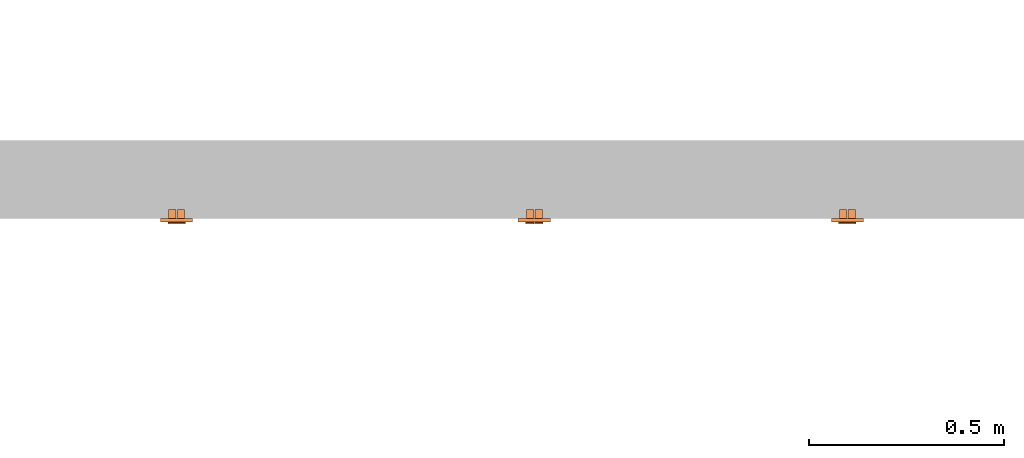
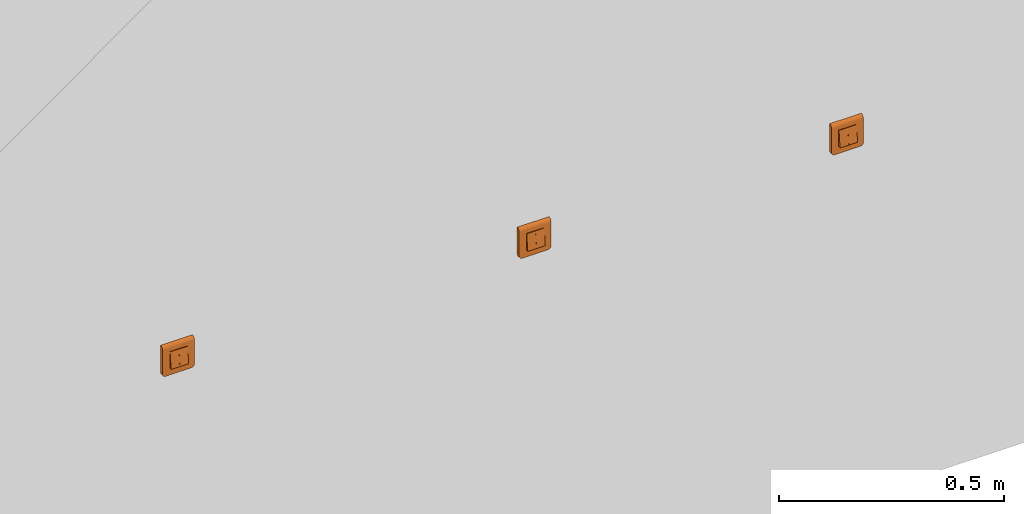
# One storey, part 104 of 197: 3 proxies.
"""IFC2X3 building model written with IfcOpenShell, lengths in metres."""

from ifc_helpers import new_model, entity, si_unit, converted_unit, direction, frame, origin, place, context, subcontext, project, spatial, faceted_brep, source, transform, mapped, material, material_list, type_object, type_shapes, element, save


model = new_model("IFC2X3")

# Units and contexts
model_context = context("Model", 3, precision=1e-05, world=origin(), true_north=direction((6.123031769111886e-17, 1.0)))
body_context = subcontext(model_context, "Body", "Model", "MODEL_VIEW")
ifc_project = project(units=[si_unit("LENGTHUNIT", "METRE"), converted_unit("PLANEANGLEUNIT", "DEGREE", entity("IfcPlaneAngleMeasure", 0.017453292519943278), si_unit("PLANEANGLEUNIT", "RADIAN"), dimensions=[0, 0, 0, 0, 0, 0, 0]), si_unit("AREAUNIT", "SQUARE_METRE")], contexts=[model_context])

# Site, building, storey
site_placement = place(None, origin())
site = spatial("IfcSite", under=ifc_project, at=site_placement, Name="Default", CompositionType="ELEMENT")
building_placement = place(site_placement, origin())
building = spatial("IfcBuilding", under=site, at=building_placement, CompositionType="ELEMENT")
storey_placement = place(building_placement, origin())
storey = spatial("IfcBuildingStorey", under=building, at=storey_placement, Name="Niveau 0", CompositionType="ELEMENT", Elevation=0.0)

# Proxies
ifc_material_1 = material(Name="BETCE-DOIGT VR-BLANC")
ifc_material_2 = material(Name="BETCE-ENJOLIVEUR VR-BLANC")
ifc_material_3 = material(Name="<Unnamed>")
ifc_material_list = material_list([ifc_material_1, ifc_material_2, ifc_material_3])
building_element_proxy_type_1 = type_object("IfcBuildingElementProxyType", Name="Interrupteur volet roulant encastré:Volet roulant", PredefinedType="NOTDEFINED", material=ifc_material_list)
shared_shape_1 = source(origin(), body_context, "Body", "Brep", [
    faceted_brep([(0.022499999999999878, -0.010499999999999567, 0.022499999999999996), (9.999999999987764e-05, -0.010499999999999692, 0.022500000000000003), (9.999999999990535e-05, -0.014999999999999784, -0.02250000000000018), (0.022499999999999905, -0.014999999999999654, -0.022500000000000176), (9.99999999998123e-05, 0.0, 0.022499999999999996), (0.022499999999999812, 0.0, 0.022499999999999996), (0.022499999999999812, 0.0, -0.02250000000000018), (9.99999999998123e-05, 0.0, -0.02250000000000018)], [[[0, 1, 2, 3]], [[4, 5, 6, 7]], [[5, 4, 1, 0]], [[6, 5, 0, 3]], [[7, 6, 3, 2]], [[4, 7, 2, 1]]]),
    faceted_brep([(-0.022500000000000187, 0.0, -0.022500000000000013), (-0.022500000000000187, 0.0, 0.022499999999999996), (-0.00010000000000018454, 0.0, 0.022499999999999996), (-0.00010000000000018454, 0.0, -0.022500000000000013), (-0.022500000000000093, -0.014999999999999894, -0.022500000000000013), (-0.02250000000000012, -0.010499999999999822, 0.022499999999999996), (-0.0001000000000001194, -0.010499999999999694, 0.022499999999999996), (-0.00010000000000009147, -0.01499999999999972, -0.022500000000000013)], [[[0, 1, 2, 3]], [[1, 0, 4, 5]], [[2, 1, 5, 6]], [[3, 2, 6, 7]], [[0, 3, 7, 4]], [[5, 4, 7, 6]]]),
    faceted_brep([(0.04099999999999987, -0.008999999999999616, -0.03299999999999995), (0.04099999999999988, -0.008999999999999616, 0.031999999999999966), (0.022499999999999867, -0.008999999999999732, -0.022500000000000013), (0.03299999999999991, -0.008999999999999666, -0.0409999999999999), (0.03507055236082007, -0.008999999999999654, -0.04072740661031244), (0.040727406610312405, -0.00899999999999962, -0.03507055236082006), (0.022499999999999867, -0.008999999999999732, 0.022499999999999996), (-0.022500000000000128, -0.009000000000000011, 0.022499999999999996), (-0.04100000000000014, -0.009000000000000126, 0.031999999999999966), (-0.022500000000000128, -0.009000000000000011, -0.022500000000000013), (-0.04100000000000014, -0.009000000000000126, -0.032999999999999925), (-0.033000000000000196, -0.009000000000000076, -0.04099999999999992), (-0.03507055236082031, -0.00900000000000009, -0.04072740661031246), (-0.040727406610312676, -0.009000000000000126, -0.035070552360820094), (-0.03700000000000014, -0.009000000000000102, -0.03992820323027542), (-0.039928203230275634, -0.009000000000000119, -0.036999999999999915), (-0.038656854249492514, -0.009000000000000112, -0.03865685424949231), (0.03699999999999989, -0.008999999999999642, -0.039928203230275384), (0.039928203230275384, -0.008999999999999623, -0.036999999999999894), (0.03865685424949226, -0.008999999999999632, -0.03865685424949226), (-0.04100000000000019, 0.0, -0.03299999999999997), (-0.041000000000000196, 0.0, 0.04100000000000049), (-0.02250000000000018, 0.0, 0.022499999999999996), (-0.02250000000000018, 0.0, -0.022500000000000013), (-0.033000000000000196, 0.0, -0.04099999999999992), (-0.04072740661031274, 0.0, -0.035070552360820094), (0.022499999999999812, 0.0, 0.022499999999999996), (0.04099999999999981, 0.0, 0.04099999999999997), (0.04099999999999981, 0.0, -0.0329999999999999), (0.022499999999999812, 0.0, -0.022500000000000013), (0.032999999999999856, 0.0, -0.0409999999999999), (0.04072740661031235, 0.0, -0.03507055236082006), (0.03507055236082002, 0.0, -0.04072740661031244), (0.03992820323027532, 0.0, -0.036999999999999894), (0.03699999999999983, 0.0, -0.039928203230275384), (0.0386568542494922, 0.0, -0.03865685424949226), (-0.035070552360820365, 0.0, -0.04072740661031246), (-0.0399282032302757, 0.0, -0.036999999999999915), (-0.03700000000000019, 0.0, -0.03992820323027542), (-0.03865685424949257, 0.0, -0.03865685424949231), (0.04099999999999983, -0.0023293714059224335, 0.040693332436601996), (0.04099999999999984, -0.004499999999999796, 0.039794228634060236), (0.04099999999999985, -0.006363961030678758, 0.03836396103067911), (0.040999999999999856, -0.007794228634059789, 0.03650000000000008), (0.04099999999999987, -0.008693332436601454, 0.034329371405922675), (-0.04100000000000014, -0.008693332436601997, 0.03432937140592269), (-0.04100000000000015, -0.007794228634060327, 0.036500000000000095), (-0.041000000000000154, -0.006363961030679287, 0.03836396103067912), (-0.04100000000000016, -0.00450000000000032, 0.03979422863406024), (-0.041000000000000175, -0.0023293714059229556, 0.040693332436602)], [[[0, 1, 2]], [[3, 0, 2]], [[0, 3, 4]], [[5, 0, 4]], [[2, 1, 6]], [[1, 7, 6]], [[7, 1, 8]], [[9, 7, 8]], [[10, 9, 8]], [[11, 9, 10]], [[11, 10, 12]], [[12, 10, 13]], [[14, 12, 13]], [[15, 14, 13]], [[14, 15, 16]], [[9, 11, 3]], [[2, 9, 3]], [[5, 4, 17]], [[5, 17, 18]], [[19, 18, 17]], [[20, 21, 22]], [[23, 20, 22]], [[24, 20, 23]], [[25, 20, 24]], [[21, 26, 22]], [[26, 21, 27]], [[28, 26, 27]], [[29, 26, 28]], [[30, 29, 28]], [[30, 28, 31]], [[30, 31, 32]], [[31, 33, 32]], [[33, 34, 32]], [[34, 33, 35]], [[29, 30, 24]], [[25, 24, 36]], [[23, 29, 24]], [[37, 25, 36]], [[37, 36, 38]], [[39, 37, 38]], [[1, 0, 28, 27, 40, 41, 42, 43, 44]], [[31, 28, 0, 5]], [[33, 31, 5, 18]], [[35, 33, 18, 19]], [[34, 35, 19, 17]], [[32, 34, 17, 4]], [[30, 32, 4, 3]], [[24, 30, 3, 11]], [[36, 24, 11, 12]], [[38, 36, 12, 14]], [[39, 38, 14, 16]], [[37, 39, 16, 15]], [[25, 37, 15, 13]], [[20, 25, 13, 10]], [[21, 20, 10, 8, 45, 46, 47, 48, 49]], [[44, 43, 46, 45]], [[1, 44, 45, 8]], [[43, 42, 47, 46]], [[49, 48, 41, 40]], [[21, 49, 40, 27]], [[42, 41, 48, 47]], [[23, 22, 7, 9]], [[29, 23, 9, 2]], [[26, 29, 2, 6]], [[22, 26, 6, 7]]]),
    faceted_brep([(-0.020500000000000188, 0.0, 0.020499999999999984), (-0.020500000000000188, 0.0, -0.020500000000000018), (-0.0021000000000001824, 0.0, -0.020500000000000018), (-0.0021000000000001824, 0.0, 0.020499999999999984), (-0.02050000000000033, 0.023000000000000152, 0.020499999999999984), (-0.0021000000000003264, 0.023000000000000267, 0.020499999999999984), (-0.0021000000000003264, 0.023000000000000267, -0.020500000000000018), (-0.02050000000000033, 0.023000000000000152, -0.020500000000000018)], [[[0, 1, 2, 3]], [[4, 5, 6, 7]], [[1, 0, 4, 7]], [[2, 1, 7, 6]], [[3, 2, 6, 5]], [[0, 3, 5, 4]]]),
    faceted_brep([(0.002099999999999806, 0.0, -0.02050000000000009), (0.002099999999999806, 0.0, 0.020499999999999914), (0.002099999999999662, 0.02300000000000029, 0.020499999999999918), (0.002099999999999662, 0.02300000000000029, -0.020500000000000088), (0.020499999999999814, 0.0, -0.020500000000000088), (0.02049999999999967, 0.023000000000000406, -0.020500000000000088), (0.020499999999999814, 0.0, 0.020499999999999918), (0.02049999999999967, 0.023000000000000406, 0.020499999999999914)], [[[0, 1, 2, 3]], [[4, 0, 3, 5]], [[6, 4, 5, 7]], [[1, 6, 7, 2]], [[2, 7, 5, 3]], [[1, 0, 4, 6]]]),
])
type_shapes(building_element_proxy_type_1, [shared_shape_1])
proxy_1_placement = place(storey_placement, frame((-415.6354485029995, 97.32254659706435, 1.0)))
element("IfcBuildingElementProxy", 1, at=proxy_1_placement, inside=storey, type_object=building_element_proxy_type_1, material=ifc_material_list, Name="Interrupteur volet roulant encastré:Volet roulant", ObjectType="Interrupteur volet roulant encastré:Volet roulant", context=body_context, shape_type="MappedRepresentation", body=[
    mapped(shared_shape_1, transform((0.0, 0.0, 0.0), scale=1.0)),
])
building_element_proxy_type_2 = type_object("IfcBuildingElementProxyType", Name="Interrupteur volet roulant encastré:ORANGE", PredefinedType="NOTDEFINED", material=ifc_material_list)
shared_shape_2 = source(origin(), body_context, "Body", "Brep", [
    faceted_brep([(0.022499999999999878, -0.010499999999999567, 0.022499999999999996), (9.999999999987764e-05, -0.010499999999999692, 0.022500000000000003), (9.999999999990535e-05, -0.014999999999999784, -0.02250000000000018), (0.022499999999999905, -0.014999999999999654, -0.022500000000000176), (9.99999999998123e-05, 0.0, 0.022499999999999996), (0.022499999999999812, 0.0, 0.022499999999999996), (0.022499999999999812, 0.0, -0.02250000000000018), (9.99999999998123e-05, 0.0, -0.02250000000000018)], [[[0, 1, 2, 3]], [[4, 5, 6, 7]], [[5, 4, 1, 0]], [[6, 5, 0, 3]], [[7, 6, 3, 2]], [[4, 7, 2, 1]]]),
    faceted_brep([(-0.022500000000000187, 0.0, -0.022500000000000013), (-0.022500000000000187, 0.0, 0.022499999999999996), (-0.00010000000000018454, 0.0, 0.022499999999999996), (-0.00010000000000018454, 0.0, -0.022500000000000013), (-0.022500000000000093, -0.014999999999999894, -0.022500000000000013), (-0.02250000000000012, -0.010499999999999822, 0.022499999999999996), (-0.0001000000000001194, -0.010499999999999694, 0.022499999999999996), (-0.00010000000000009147, -0.01499999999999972, -0.022500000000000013)], [[[0, 1, 2, 3]], [[1, 0, 4, 5]], [[2, 1, 5, 6]], [[3, 2, 6, 7]], [[0, 3, 7, 4]], [[5, 4, 7, 6]]]),
    faceted_brep([(0.04099999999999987, -0.008999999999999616, -0.03299999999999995), (0.04099999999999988, -0.008999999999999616, 0.031999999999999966), (0.022499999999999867, -0.008999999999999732, -0.022500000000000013), (0.03299999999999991, -0.008999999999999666, -0.0409999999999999), (0.03507055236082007, -0.008999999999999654, -0.04072740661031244), (0.040727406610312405, -0.00899999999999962, -0.03507055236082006), (0.022499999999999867, -0.008999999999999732, 0.022499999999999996), (-0.022500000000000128, -0.009000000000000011, 0.022499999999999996), (-0.04100000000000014, -0.009000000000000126, 0.031999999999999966), (-0.022500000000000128, -0.009000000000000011, -0.022500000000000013), (-0.04100000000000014, -0.009000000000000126, -0.032999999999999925), (-0.033000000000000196, -0.009000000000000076, -0.04099999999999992), (-0.03507055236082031, -0.00900000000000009, -0.04072740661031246), (-0.040727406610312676, -0.009000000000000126, -0.035070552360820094), (-0.03700000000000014, -0.009000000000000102, -0.03992820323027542), (-0.039928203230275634, -0.009000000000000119, -0.036999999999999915), (-0.038656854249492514, -0.009000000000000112, -0.03865685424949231), (0.03699999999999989, -0.008999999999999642, -0.039928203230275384), (0.039928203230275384, -0.008999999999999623, -0.036999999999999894), (0.03865685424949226, -0.008999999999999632, -0.03865685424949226), (-0.04100000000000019, 0.0, -0.03299999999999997), (-0.041000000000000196, 0.0, 0.04100000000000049), (-0.02250000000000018, 0.0, 0.022499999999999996), (-0.02250000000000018, 0.0, -0.022500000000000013), (-0.033000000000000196, 0.0, -0.04099999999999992), (-0.04072740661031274, 0.0, -0.035070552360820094), (0.022499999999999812, 0.0, 0.022499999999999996), (0.04099999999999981, 0.0, 0.04099999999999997), (0.04099999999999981, 0.0, -0.0329999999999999), (0.022499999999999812, 0.0, -0.022500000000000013), (0.032999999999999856, 0.0, -0.0409999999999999), (0.04072740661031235, 0.0, -0.03507055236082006), (0.03507055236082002, 0.0, -0.04072740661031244), (0.03992820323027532, 0.0, -0.036999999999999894), (0.03699999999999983, 0.0, -0.039928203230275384), (0.0386568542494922, 0.0, -0.03865685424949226), (-0.035070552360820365, 0.0, -0.04072740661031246), (-0.0399282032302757, 0.0, -0.036999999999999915), (-0.03700000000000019, 0.0, -0.03992820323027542), (-0.03865685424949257, 0.0, -0.03865685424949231), (0.04099999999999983, -0.0023293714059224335, 0.040693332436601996), (0.04099999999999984, -0.004499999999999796, 0.039794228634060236), (0.04099999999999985, -0.006363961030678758, 0.03836396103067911), (0.040999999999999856, -0.007794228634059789, 0.03650000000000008), (0.04099999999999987, -0.008693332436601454, 0.034329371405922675), (-0.04100000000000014, -0.008693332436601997, 0.03432937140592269), (-0.04100000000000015, -0.007794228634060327, 0.036500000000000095), (-0.041000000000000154, -0.006363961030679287, 0.03836396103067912), (-0.04100000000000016, -0.00450000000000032, 0.03979422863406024), (-0.041000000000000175, -0.0023293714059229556, 0.040693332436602)], [[[0, 1, 2]], [[3, 0, 2]], [[0, 3, 4]], [[5, 0, 4]], [[2, 1, 6]], [[1, 7, 6]], [[7, 1, 8]], [[9, 7, 8]], [[10, 9, 8]], [[11, 9, 10]], [[11, 10, 12]], [[12, 10, 13]], [[14, 12, 13]], [[15, 14, 13]], [[14, 15, 16]], [[9, 11, 3]], [[2, 9, 3]], [[5, 4, 17]], [[5, 17, 18]], [[19, 18, 17]], [[20, 21, 22]], [[23, 20, 22]], [[24, 20, 23]], [[25, 20, 24]], [[21, 26, 22]], [[26, 21, 27]], [[28, 26, 27]], [[29, 26, 28]], [[30, 29, 28]], [[30, 28, 31]], [[30, 31, 32]], [[31, 33, 32]], [[33, 34, 32]], [[34, 33, 35]], [[29, 30, 24]], [[25, 24, 36]], [[23, 29, 24]], [[37, 25, 36]], [[37, 36, 38]], [[39, 37, 38]], [[1, 0, 28, 27, 40, 41, 42, 43, 44]], [[31, 28, 0, 5]], [[33, 31, 5, 18]], [[35, 33, 18, 19]], [[34, 35, 19, 17]], [[32, 34, 17, 4]], [[30, 32, 4, 3]], [[24, 30, 3, 11]], [[36, 24, 11, 12]], [[38, 36, 12, 14]], [[39, 38, 14, 16]], [[37, 39, 16, 15]], [[25, 37, 15, 13]], [[20, 25, 13, 10]], [[21, 20, 10, 8, 45, 46, 47, 48, 49]], [[44, 43, 46, 45]], [[1, 44, 45, 8]], [[43, 42, 47, 46]], [[49, 48, 41, 40]], [[21, 49, 40, 27]], [[42, 41, 48, 47]], [[23, 22, 7, 9]], [[29, 23, 9, 2]], [[26, 29, 2, 6]], [[22, 26, 6, 7]]]),
    faceted_brep([(-0.020500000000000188, 0.0, 0.020499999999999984), (-0.020500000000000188, 0.0, -0.020500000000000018), (-0.0021000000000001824, 0.0, -0.020500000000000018), (-0.0021000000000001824, 0.0, 0.020499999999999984), (-0.02050000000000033, 0.023000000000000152, 0.020499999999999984), (-0.0021000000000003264, 0.023000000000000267, 0.020499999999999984), (-0.0021000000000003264, 0.023000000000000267, -0.020500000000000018), (-0.02050000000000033, 0.023000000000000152, -0.020500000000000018)], [[[0, 1, 2, 3]], [[4, 5, 6, 7]], [[1, 0, 4, 7]], [[2, 1, 7, 6]], [[3, 2, 6, 5]], [[0, 3, 5, 4]]]),
    faceted_brep([(0.002099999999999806, 0.0, -0.02050000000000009), (0.002099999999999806, 0.0, 0.020499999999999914), (0.002099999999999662, 0.02300000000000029, 0.020499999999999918), (0.002099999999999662, 0.02300000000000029, -0.020500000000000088), (0.020499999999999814, 0.0, -0.020500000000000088), (0.02049999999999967, 0.023000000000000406, -0.020500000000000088), (0.020499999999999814, 0.0, 0.020499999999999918), (0.02049999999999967, 0.023000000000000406, 0.020499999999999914)], [[[0, 1, 2, 3]], [[4, 0, 3, 5]], [[6, 4, 5, 7]], [[1, 6, 7, 2]], [[2, 7, 5, 3]], [[1, 0, 4, 6]]]),
])
type_shapes(building_element_proxy_type_2, [shared_shape_2])
proxy_2_placement = place(storey_placement, frame((-414.7194485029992, 97.32254659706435, 1.0)))
element("IfcBuildingElementProxy", 2, at=proxy_2_placement, inside=storey, type_object=building_element_proxy_type_2, material=ifc_material_list, Name="Interrupteur volet roulant encastré:ORANGE", ObjectType="Interrupteur volet roulant encastré:ORANGE", context=body_context, shape_type="MappedRepresentation", body=[
    mapped(shared_shape_2, transform((0.0, 0.0, 0.0), scale=1.0)),
])
building_element_proxy_type_3 = type_object("IfcBuildingElementProxyType", Name="Interrupteur volet roulant encastré:VERT", PredefinedType="NOTDEFINED", material=ifc_material_list)
shared_shape_3 = source(origin(), body_context, "Body", "Brep", [
    faceted_brep([(0.022499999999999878, -0.010499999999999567, 0.022499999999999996), (9.999999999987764e-05, -0.010499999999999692, 0.022500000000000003), (9.999999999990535e-05, -0.014999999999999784, -0.02250000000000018), (0.022499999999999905, -0.014999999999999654, -0.022500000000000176), (9.99999999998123e-05, 0.0, 0.022499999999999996), (0.022499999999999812, 0.0, 0.022499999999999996), (0.022499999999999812, 0.0, -0.02250000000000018), (9.99999999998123e-05, 0.0, -0.02250000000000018)], [[[0, 1, 2, 3]], [[4, 5, 6, 7]], [[5, 4, 1, 0]], [[6, 5, 0, 3]], [[7, 6, 3, 2]], [[4, 7, 2, 1]]]),
    faceted_brep([(-0.022500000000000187, 0.0, -0.022500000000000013), (-0.022500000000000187, 0.0, 0.022499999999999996), (-0.00010000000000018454, 0.0, 0.022499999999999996), (-0.00010000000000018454, 0.0, -0.022500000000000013), (-0.022500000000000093, -0.014999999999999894, -0.022500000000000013), (-0.02250000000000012, -0.010499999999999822, 0.022499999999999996), (-0.0001000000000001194, -0.010499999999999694, 0.022499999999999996), (-0.00010000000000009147, -0.01499999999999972, -0.022500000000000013)], [[[0, 1, 2, 3]], [[1, 0, 4, 5]], [[2, 1, 5, 6]], [[3, 2, 6, 7]], [[0, 3, 7, 4]], [[5, 4, 7, 6]]]),
    faceted_brep([(0.04099999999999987, -0.008999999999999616, -0.03299999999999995), (0.04099999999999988, -0.008999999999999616, 0.031999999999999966), (0.022499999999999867, -0.008999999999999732, -0.022500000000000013), (0.03299999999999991, -0.008999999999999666, -0.0409999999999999), (0.03507055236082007, -0.008999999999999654, -0.04072740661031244), (0.040727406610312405, -0.00899999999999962, -0.03507055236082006), (0.022499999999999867, -0.008999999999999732, 0.022499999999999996), (-0.022500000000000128, -0.009000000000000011, 0.022499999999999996), (-0.04100000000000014, -0.009000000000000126, 0.031999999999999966), (-0.022500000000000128, -0.009000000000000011, -0.022500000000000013), (-0.04100000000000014, -0.009000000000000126, -0.032999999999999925), (-0.033000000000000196, -0.009000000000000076, -0.04099999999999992), (-0.03507055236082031, -0.00900000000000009, -0.04072740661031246), (-0.040727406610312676, -0.009000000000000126, -0.035070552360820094), (-0.03700000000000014, -0.009000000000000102, -0.03992820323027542), (-0.039928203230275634, -0.009000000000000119, -0.036999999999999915), (-0.038656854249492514, -0.009000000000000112, -0.03865685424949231), (0.03699999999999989, -0.008999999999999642, -0.039928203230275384), (0.039928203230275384, -0.008999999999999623, -0.036999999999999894), (0.03865685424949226, -0.008999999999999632, -0.03865685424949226), (-0.04100000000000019, 0.0, -0.03299999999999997), (-0.041000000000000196, 0.0, 0.04100000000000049), (-0.02250000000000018, 0.0, 0.022499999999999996), (-0.02250000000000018, 0.0, -0.022500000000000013), (-0.033000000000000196, 0.0, -0.04099999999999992), (-0.04072740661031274, 0.0, -0.035070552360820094), (0.022499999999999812, 0.0, 0.022499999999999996), (0.04099999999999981, 0.0, 0.04099999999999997), (0.04099999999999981, 0.0, -0.0329999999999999), (0.022499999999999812, 0.0, -0.022500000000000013), (0.032999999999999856, 0.0, -0.0409999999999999), (0.04072740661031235, 0.0, -0.03507055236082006), (0.03507055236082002, 0.0, -0.04072740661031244), (0.03992820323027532, 0.0, -0.036999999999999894), (0.03699999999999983, 0.0, -0.039928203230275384), (0.0386568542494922, 0.0, -0.03865685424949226), (-0.035070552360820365, 0.0, -0.04072740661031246), (-0.0399282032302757, 0.0, -0.036999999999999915), (-0.03700000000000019, 0.0, -0.03992820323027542), (-0.03865685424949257, 0.0, -0.03865685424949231), (0.04099999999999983, -0.0023293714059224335, 0.040693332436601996), (0.04099999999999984, -0.004499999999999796, 0.039794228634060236), (0.04099999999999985, -0.006363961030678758, 0.03836396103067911), (0.040999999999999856, -0.007794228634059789, 0.03650000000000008), (0.04099999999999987, -0.008693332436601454, 0.034329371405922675), (-0.04100000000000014, -0.008693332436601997, 0.03432937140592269), (-0.04100000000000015, -0.007794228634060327, 0.036500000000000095), (-0.041000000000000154, -0.006363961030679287, 0.03836396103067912), (-0.04100000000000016, -0.00450000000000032, 0.03979422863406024), (-0.041000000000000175, -0.0023293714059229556, 0.040693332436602)], [[[0, 1, 2]], [[3, 0, 2]], [[0, 3, 4]], [[5, 0, 4]], [[2, 1, 6]], [[1, 7, 6]], [[7, 1, 8]], [[9, 7, 8]], [[10, 9, 8]], [[11, 9, 10]], [[11, 10, 12]], [[12, 10, 13]], [[14, 12, 13]], [[15, 14, 13]], [[14, 15, 16]], [[9, 11, 3]], [[2, 9, 3]], [[5, 4, 17]], [[5, 17, 18]], [[19, 18, 17]], [[20, 21, 22]], [[23, 20, 22]], [[24, 20, 23]], [[25, 20, 24]], [[21, 26, 22]], [[26, 21, 27]], [[28, 26, 27]], [[29, 26, 28]], [[30, 29, 28]], [[30, 28, 31]], [[30, 31, 32]], [[31, 33, 32]], [[33, 34, 32]], [[34, 33, 35]], [[29, 30, 24]], [[25, 24, 36]], [[23, 29, 24]], [[37, 25, 36]], [[37, 36, 38]], [[39, 37, 38]], [[1, 0, 28, 27, 40, 41, 42, 43, 44]], [[31, 28, 0, 5]], [[33, 31, 5, 18]], [[35, 33, 18, 19]], [[34, 35, 19, 17]], [[32, 34, 17, 4]], [[30, 32, 4, 3]], [[24, 30, 3, 11]], [[36, 24, 11, 12]], [[38, 36, 12, 14]], [[39, 38, 14, 16]], [[37, 39, 16, 15]], [[25, 37, 15, 13]], [[20, 25, 13, 10]], [[21, 20, 10, 8, 45, 46, 47, 48, 49]], [[44, 43, 46, 45]], [[1, 44, 45, 8]], [[43, 42, 47, 46]], [[49, 48, 41, 40]], [[21, 49, 40, 27]], [[42, 41, 48, 47]], [[23, 22, 7, 9]], [[29, 23, 9, 2]], [[26, 29, 2, 6]], [[22, 26, 6, 7]]]),
    faceted_brep([(-0.020500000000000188, 0.0, 0.020499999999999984), (-0.020500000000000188, 0.0, -0.020500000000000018), (-0.0021000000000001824, 0.0, -0.020500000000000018), (-0.0021000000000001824, 0.0, 0.020499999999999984), (-0.02050000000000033, 0.023000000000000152, 0.020499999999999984), (-0.0021000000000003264, 0.023000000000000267, 0.020499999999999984), (-0.0021000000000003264, 0.023000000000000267, -0.020500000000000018), (-0.02050000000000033, 0.023000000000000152, -0.020500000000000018)], [[[0, 1, 2, 3]], [[4, 5, 6, 7]], [[1, 0, 4, 7]], [[2, 1, 7, 6]], [[3, 2, 6, 5]], [[0, 3, 5, 4]]]),
    faceted_brep([(0.002099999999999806, 0.0, -0.02050000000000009), (0.002099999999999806, 0.0, 0.020499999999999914), (0.002099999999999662, 0.02300000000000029, 0.020499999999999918), (0.002099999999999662, 0.02300000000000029, -0.020500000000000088), (0.020499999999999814, 0.0, -0.020500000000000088), (0.02049999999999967, 0.023000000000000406, -0.020500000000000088), (0.020499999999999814, 0.0, 0.020499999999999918), (0.02049999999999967, 0.023000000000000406, 0.020499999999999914)], [[[0, 1, 2, 3]], [[4, 0, 3, 5]], [[6, 4, 5, 7]], [[1, 6, 7, 2]], [[2, 7, 5, 3]], [[1, 0, 4, 6]]]),
])
type_shapes(building_element_proxy_type_3, [shared_shape_3])
proxy_3_placement = place(storey_placement, frame((-413.917448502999, 97.32254659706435, 1.0)))
element("IfcBuildingElementProxy", 3, at=proxy_3_placement, inside=storey, type_object=building_element_proxy_type_3, material=ifc_material_list, Name="Interrupteur volet roulant encastré:VERT", ObjectType="Interrupteur volet roulant encastré:VERT", context=body_context, shape_type="MappedRepresentation", body=[
    mapped(shared_shape_3, transform((0.0, 0.0, 0.0), scale=1.0)),
])

save(model, "model.ifc")
